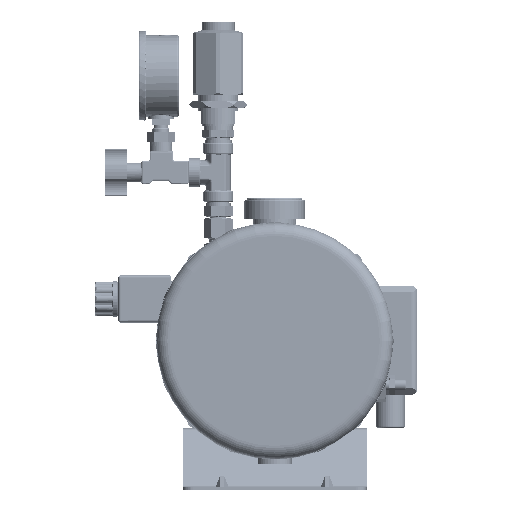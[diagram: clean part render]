
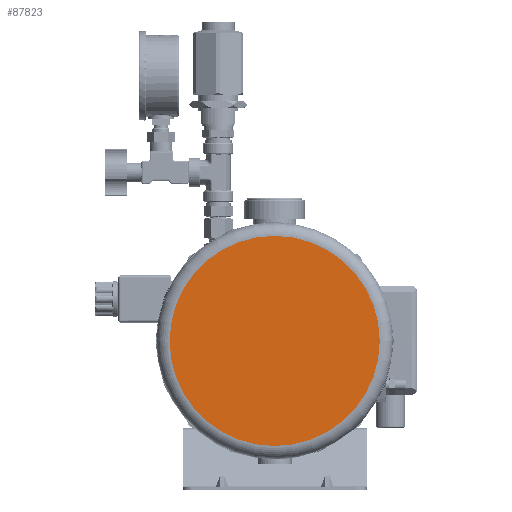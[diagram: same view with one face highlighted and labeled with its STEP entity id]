
A CAD part, left-side view. The second image highlights one B-rep face of the part: STEP entity #87823.
In plain terms, the highlighted planar face has unit normal (-1, 0, 0).
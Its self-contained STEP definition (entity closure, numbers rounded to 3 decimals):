
#17192=PLANE('',#95316);
#20625=FACE_OUTER_BOUND('',#25639,.T.);
#25639=EDGE_LOOP('',(#68110,#68111));
#30734=CIRCLE('',#95254,80.);
#30735=CIRCLE('',#95255,80.);
#38115=VERTEX_POINT('',#163052);
#38116=VERTEX_POINT('',#163053);
#48718=EDGE_CURVE('',#38115,#38116,#30734,.T.);
#48719=EDGE_CURVE('',#38116,#38115,#30735,.T.);
#68110=ORIENTED_EDGE('',*,*,#48718,.T.);
#68111=ORIENTED_EDGE('',*,*,#48719,.T.);
#87823=ADVANCED_FACE('',(#20625),#17192,.T.);
#95254=AXIS2_PLACEMENT_3D('',#163054,#113766,#113767);
#95255=AXIS2_PLACEMENT_3D('',#163055,#113768,#113769);
#95316=AXIS2_PLACEMENT_3D('',#169259,#113896,#113897);
#113766=DIRECTION('center_axis',(-1.,0.,0.));
#113767=DIRECTION('ref_axis',(0.,-1.,0.));
#113768=DIRECTION('center_axis',(-1.,0.,0.));
#113769=DIRECTION('ref_axis',(0.,-1.,0.));
#113896=DIRECTION('center_axis',(-1.,0.,0.));
#113897=DIRECTION('ref_axis',(0.,-1.,0.));
#163052=CARTESIAN_POINT('',(-437.,-1283.762,-20.89));
#163053=CARTESIAN_POINT('',(-437.,-1123.762,-20.89));
#163054=CARTESIAN_POINT('Origin',(-437.,-1203.762,-20.89));
#163055=CARTESIAN_POINT('Origin',(-437.,-1203.762,-20.89));
#169259=CARTESIAN_POINT('Origin',(-437.,-1203.762,69.11));
